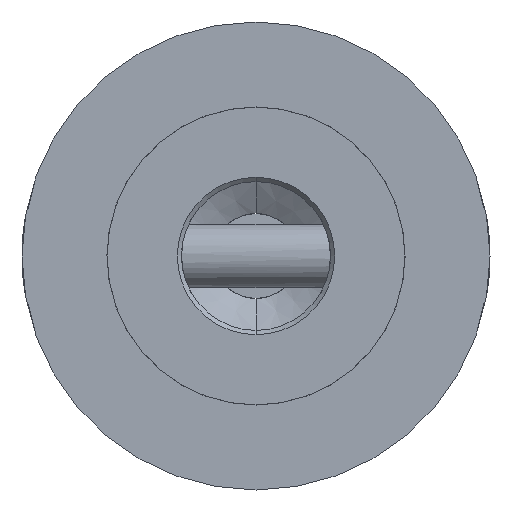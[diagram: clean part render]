
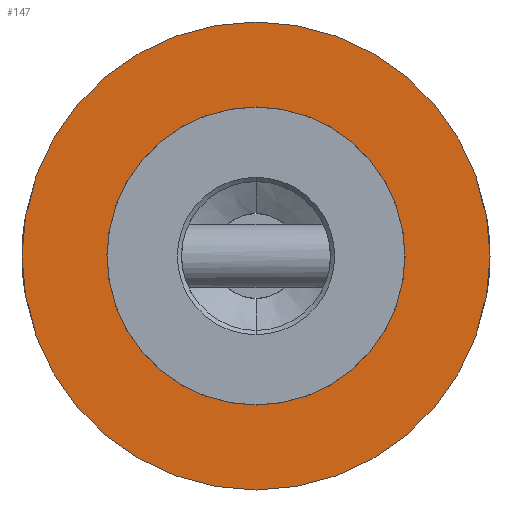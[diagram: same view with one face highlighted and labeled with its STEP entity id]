
A CAD part, front view. The second image highlights one B-rep face of the part: STEP entity #147.
In plain terms, the highlighted planar face has unit normal (0, -1, 0).
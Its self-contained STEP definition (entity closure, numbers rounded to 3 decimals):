
#147 = ADVANCED_FACE ( 'NONE', ( #1769, #2591 ), #2041, .T. ) ;
#151 = CARTESIAN_POINT ( 'NONE',  ( 0., -600., 0. ) ) ;
#189 = AXIS2_PLACEMENT_3D ( 'NONE', #2712, #384, #3016 ) ;
#384 = DIRECTION ( 'NONE',  ( 0., -1., 0. ) ) ;
#482 = CARTESIAN_POINT ( 'NONE',  ( 0., -600., 0. ) ) ;
#546 = DIRECTION ( 'NONE',  ( 0., 0., -1. ) ) ;
#579 = ORIENTED_EDGE ( 'NONE', *, *, #1196, .T. ) ;
#689 = CIRCLE ( 'NONE', #2351, 7.005 ) ;
#933 = ORIENTED_EDGE ( 'NONE', *, *, #2501, .T. ) ;
#990 = EDGE_CURVE ( 'NONE', #1760, #1944, #689, .T. ) ;
#1002 = CIRCLE ( 'NONE', #2015, 11. ) ;
#1014 = DIRECTION ( 'NONE',  ( 0., 0., -1. ) ) ;
#1035 = EDGE_CURVE ( 'NONE', #1944, #1760, #2410, .T. ) ;
#1044 = EDGE_LOOP ( 'NONE', ( #1048, #3043 ) ) ;
#1048 = ORIENTED_EDGE ( 'NONE', *, *, #990, .F. ) ;
#1142 = DIRECTION ( 'NONE',  ( 0., 0., -1. ) ) ;
#1148 = CARTESIAN_POINT ( 'NONE',  ( 0., -600., -7.005 ) ) ;
#1196 = EDGE_CURVE ( 'NONE', #1492, #2708, #2793, .T. ) ;
#1235 = DIRECTION ( 'NONE',  ( 0., 0., -1. ) ) ;
#1465 = DIRECTION ( 'NONE',  ( 0., -1., 0. ) ) ;
#1492 = VERTEX_POINT ( 'NONE', #1635 ) ;
#1544 = EDGE_LOOP ( 'NONE', ( #579, #933 ) ) ;
#1635 = CARTESIAN_POINT ( 'NONE',  ( 0., -600., -11. ) ) ;
#1760 = VERTEX_POINT ( 'NONE', #1148 ) ;
#1769 = FACE_BOUND ( 'NONE', #1044, .T. ) ;
#1871 = DIRECTION ( 'NONE',  ( 0., -1., 0. ) ) ;
#1944 = VERTEX_POINT ( 'NONE', #2024 ) ;
#2015 = AXIS2_PLACEMENT_3D ( 'NONE', #151, #3299, #1142 ) ;
#2024 = CARTESIAN_POINT ( 'NONE',  ( 0., -600., 7.005 ) ) ;
#2041 = PLANE ( 'NONE',  #2891 ) ;
#2308 = CARTESIAN_POINT ( 'NONE',  ( 0., -600., 11. ) ) ;
#2351 = AXIS2_PLACEMENT_3D ( 'NONE', #2392, #1871, #546 ) ;
#2392 = CARTESIAN_POINT ( 'NONE',  ( 0., -600., 0. ) ) ;
#2410 = CIRCLE ( 'NONE', #189, 7.005 ) ;
#2501 = EDGE_CURVE ( 'NONE', #2708, #1492, #1002, .T. ) ;
#2591 = FACE_OUTER_BOUND ( 'NONE', #1544, .T. ) ;
#2708 = VERTEX_POINT ( 'NONE', #2308 ) ;
#2712 = CARTESIAN_POINT ( 'NONE',  ( 0., -600., 0. ) ) ;
#2793 = CIRCLE ( 'NONE', #2899, 11. ) ;
#2891 = AXIS2_PLACEMENT_3D ( 'NONE', #482, #3392, #1235 ) ;
#2899 = AXIS2_PLACEMENT_3D ( 'NONE', #3044, #1465, #1014 ) ;
#3016 = DIRECTION ( 'NONE',  ( 0., 0., -1. ) ) ;
#3043 = ORIENTED_EDGE ( 'NONE', *, *, #1035, .F. ) ;
#3044 = CARTESIAN_POINT ( 'NONE',  ( 0., -600., 0. ) ) ;
#3299 = DIRECTION ( 'NONE',  ( 0., -1., 0. ) ) ;
#3392 = DIRECTION ( 'NONE',  ( 0., -1., 0. ) ) ;
